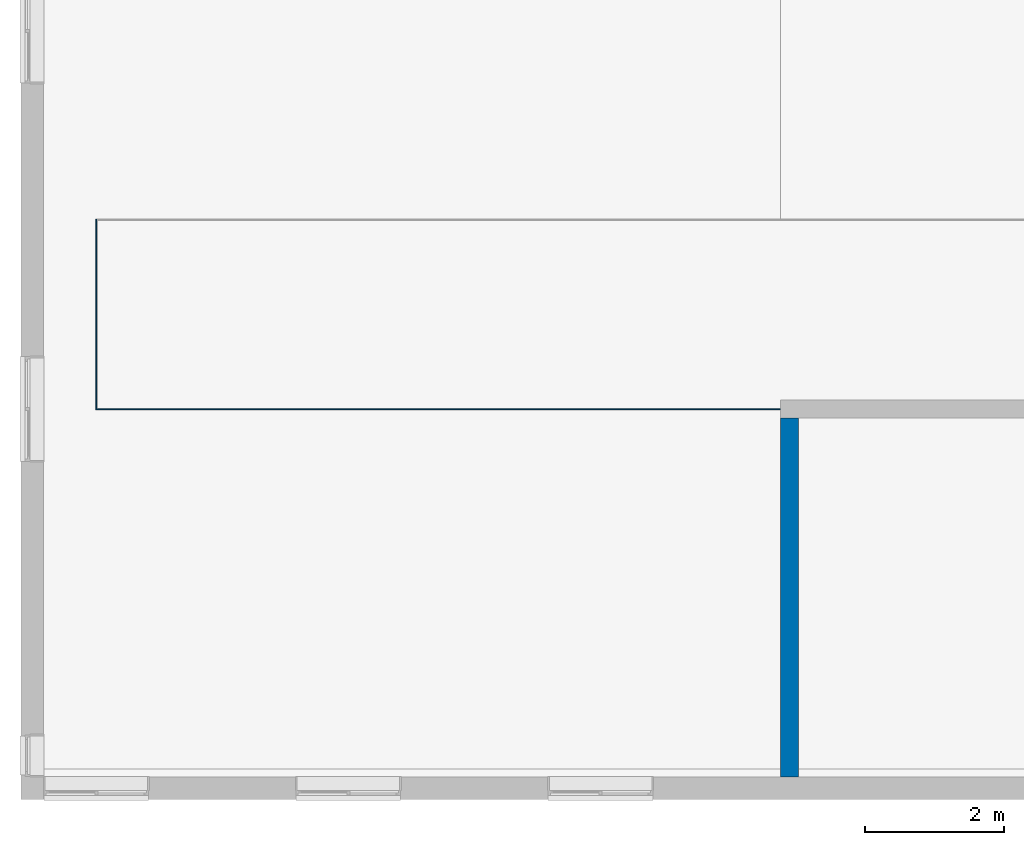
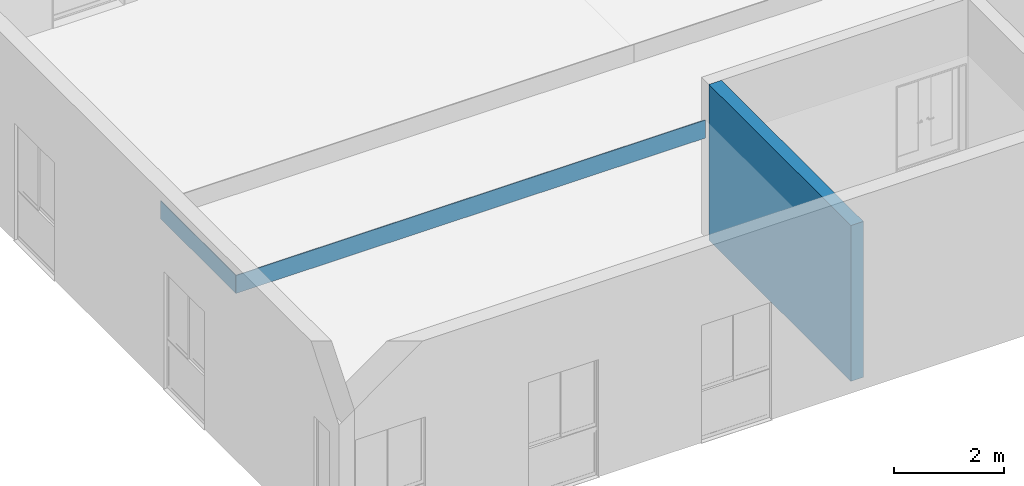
# One storey, part 1 of 11: 3 walls.
"""IFC4X3 building model written with IfcOpenShell, lengths in millimetres."""

from ifc_helpers import new_model, entity, si_unit, converted_unit, derived_unit, direction, frame, frame_2d, origin, place, context, subcontext, project, spatial, rectangle, extrude, material, layer, layer_set, type_object, element, save


model = new_model("IFC4X3")

# Units and contexts
model_context = context("Model", 3, precision=0.01, world=origin(), true_north=direction((6.12303176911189e-17, 1.0)))
body_context = subcontext(model_context, "Body", "Model", "MODEL_VIEW")
ifc_project = project(units=[si_unit("LENGTHUNIT", "METRE", prefix="MILLI"), si_unit("AREAUNIT", "SQUARE_METRE"), si_unit("VOLUMEUNIT", "CUBIC_METRE"), converted_unit("PLANEANGLEUNIT", "DEGREE", entity("IfcPlaneAngleMeasure", 0.0174532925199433), si_unit("PLANEANGLEUNIT", "RADIAN"), dimensions=[0, 0, 0, 0, 0, 0, 0]), si_unit("MASSUNIT", "GRAM", prefix="KILO"), derived_unit("MASSDENSITYUNIT", [(si_unit("MASSUNIT", "GRAM", prefix="KILO"), 1), (si_unit("LENGTHUNIT", "METRE"), -3)]), derived_unit("IONCONCENTRATIONUNIT", [(si_unit("MASSUNIT", "GRAM", prefix="KILO"), 1), (si_unit("LENGTHUNIT", "METRE"), -3)]), derived_unit("MOMENTOFINERTIAUNIT", [(si_unit("LENGTHUNIT", "METRE"), 4)]), si_unit("TIMEUNIT", "SECOND"), si_unit("FREQUENCYUNIT", "HERTZ"), si_unit("THERMODYNAMICTEMPERATUREUNIT", "DEGREE_CELSIUS"), derived_unit("THERMALTRANSMITTANCEUNIT", [(si_unit("MASSUNIT", "GRAM", prefix="KILO"), 1), (si_unit("THERMODYNAMICTEMPERATUREUNIT", "KELVIN"), -1), (si_unit("TIMEUNIT", "SECOND"), -3)]), derived_unit("THERMALCONDUCTANCEUNIT", [(si_unit("MASSUNIT", "GRAM", prefix="KILO"), 1), (si_unit("THERMODYNAMICTEMPERATUREUNIT", "KELVIN"), -1), (si_unit("TIMEUNIT", "SECOND"), -3), (si_unit("LENGTHUNIT", "METRE"), 1)]), derived_unit("VOLUMETRICFLOWRATEUNIT", [(si_unit("LENGTHUNIT", "METRE", prefix="DECI"), 3), (si_unit("TIMEUNIT", "SECOND"), -1)]), derived_unit("MASSFLOWRATEUNIT", [(si_unit("MASSUNIT", "GRAM", prefix="KILO"), 1), (si_unit("TIMEUNIT", "SECOND"), -1)]), derived_unit("ROTATIONALFREQUENCYUNIT", [(si_unit("TIMEUNIT", "SECOND"), -1)]), si_unit("ELECTRICCURRENTUNIT", "AMPERE"), si_unit("ELECTRICVOLTAGEUNIT", "VOLT"), si_unit("POWERUNIT", "WATT"), si_unit("FORCEUNIT", "NEWTON", prefix="KILO"), si_unit("ILLUMINANCEUNIT", "LUX"), si_unit("LUMINOUSFLUXUNIT", "LUMEN"), si_unit("LUMINOUSINTENSITYUNIT", "CANDELA"), si_unit("ENERGYUNIT", "JOULE"), derived_unit("USERDEFINED", [(si_unit("MASSUNIT", "GRAM", prefix="KILO"), -1), (si_unit("LENGTHUNIT", "METRE"), -2), (si_unit("TIMEUNIT", "SECOND"), 3), (si_unit("LUMINOUSFLUXUNIT", "LUMEN"), 1)]), derived_unit("USERDEFINED", [(si_unit("MASSUNIT", "GRAM", prefix="KILO"), 1), (si_unit("TIMEUNIT", "SECOND"), -3), (si_unit("LENGTHUNIT", "METRE"), 3), (si_unit("ELECTRICCURRENTUNIT", "AMPERE"), -2)]), derived_unit("SOUNDPOWERUNIT", [(si_unit("MASSUNIT", "GRAM", prefix="KILO"), 1), (si_unit("TIMEUNIT", "SECOND"), -3), (si_unit("LENGTHUNIT", "METRE"), 2)]), derived_unit("SOUNDPRESSUREUNIT", [(si_unit("MASSUNIT", "GRAM", prefix="KILO"), 1), (si_unit("LENGTHUNIT", "METRE"), -1), (si_unit("TIMEUNIT", "SECOND"), -2)]), derived_unit("LINEARVELOCITYUNIT", [(si_unit("LENGTHUNIT", "METRE"), 1), (si_unit("TIMEUNIT", "SECOND"), -1)]), si_unit("PRESSUREUNIT", "PASCAL"), derived_unit("USERDEFINED", [(si_unit("MASSUNIT", "GRAM", prefix="KILO"), 1), (si_unit("LENGTHUNIT", "METRE"), -2), (si_unit("TIMEUNIT", "SECOND"), -2)]), derived_unit("LINEARFORCEUNIT", [(si_unit("MASSUNIT", "GRAM", prefix="KILO"), 1), (si_unit("TIMEUNIT", "SECOND"), -2)]), derived_unit("PLANARFORCEUNIT", [(si_unit("MASSUNIT", "GRAM", prefix="KILO"), 1), (si_unit("LENGTHUNIT", "METRE"), -1), (si_unit("TIMEUNIT", "SECOND"), -2)]), derived_unit("SPECIFICHEATCAPACITYUNIT", [(si_unit("THERMODYNAMICTEMPERATUREUNIT", "KELVIN"), -1), (si_unit("LENGTHUNIT", "METRE"), 2), (si_unit("TIMEUNIT", "SECOND"), -2)]), derived_unit("HEATFLUXDENSITYUNIT", [(si_unit("MASSUNIT", "GRAM", prefix="KILO"), 1), (si_unit("TIMEUNIT", "SECOND"), -3)]), derived_unit("HEATINGVALUEUNIT", [(si_unit("LENGTHUNIT", "METRE"), 2), (si_unit("TIMEUNIT", "SECOND"), -2)]), derived_unit("VAPORPERMEABILITYUNIT", [(si_unit("LENGTHUNIT", "METRE"), -1), (si_unit("TIMEUNIT", "SECOND"), 1)]), derived_unit("DYNAMICVISCOSITYUNIT", [(si_unit("MASSUNIT", "GRAM", prefix="KILO"), 1), (si_unit("TIMEUNIT", "SECOND"), -1), (si_unit("LENGTHUNIT", "METRE"), -1)]), derived_unit("THERMALEXPANSIONCOEFFICIENTUNIT", [(si_unit("THERMODYNAMICTEMPERATUREUNIT", "KELVIN"), -1)]), derived_unit("MODULUSOFELASTICITYUNIT", [(si_unit("MASSUNIT", "GRAM", prefix="KILO"), 1), (si_unit("LENGTHUNIT", "METRE"), -1), (si_unit("TIMEUNIT", "SECOND"), -2)]), derived_unit("ISOTHERMALMOISTURECAPACITYUNIT", [(si_unit("MASSUNIT", "GRAM", prefix="KILO"), -1), (si_unit("LENGTHUNIT", "METRE"), 3)]), derived_unit("MOISTUREDIFFUSIVITYUNIT", [(si_unit("TIMEUNIT", "SECOND"), -1), (si_unit("LENGTHUNIT", "METRE"), 2)]), derived_unit("AREADENSITYUNIT", [(si_unit("MASSUNIT", "GRAM", prefix="KILO"), 1), (si_unit("LENGTHUNIT", "METRE"), 2)]), derived_unit("MASSPERLENGTHUNIT", [(si_unit("MASSUNIT", "GRAM", prefix="KILO"), 1), (si_unit("LENGTHUNIT", "METRE"), -1)]), derived_unit("THERMALRESISTANCEUNIT", [(si_unit("MASSUNIT", "GRAM", prefix="KILO"), -1), (si_unit("TIMEUNIT", "SECOND"), 3), (si_unit("THERMODYNAMICTEMPERATUREUNIT", "KELVIN"), 1)]), derived_unit("ACCELERATIONUNIT", [(si_unit("LENGTHUNIT", "METRE"), 1), (si_unit("TIMEUNIT", "SECOND"), -2)]), derived_unit("ANGULARVELOCITYUNIT", [(si_unit("TIMEUNIT", "SECOND"), -1), (si_unit("PLANEANGLEUNIT", "RADIAN"), 1)]), derived_unit("LINEARSTIFFNESSUNIT", [(si_unit("MASSUNIT", "GRAM", prefix="KILO"), 1), (si_unit("TIMEUNIT", "SECOND"), -2)]), derived_unit("WARPINGCONSTANTUNIT", [(si_unit("LENGTHUNIT", "METRE"), 6)]), derived_unit("LINEARMOMENTUNIT", [(si_unit("MASSUNIT", "GRAM", prefix="KILO"), 1), (si_unit("LENGTHUNIT", "METRE"), 1), (si_unit("TIMEUNIT", "SECOND"), -2)]), derived_unit("TORQUEUNIT", [(si_unit("MASSUNIT", "GRAM", prefix="KILO"), 1), (si_unit("LENGTHUNIT", "METRE"), 2), (si_unit("TIMEUNIT", "SECOND"), -2)])], contexts=[model_context])

# Site, building, storey
site_placement = place(None, origin())
site = spatial("IfcSite", under=ifc_project, at=site_placement, Name="Default", CompositionType="ELEMENT")
building_placement = place(site_placement, origin())
building = spatial("IfcBuilding", under=site, at=building_placement, Name="事務所ビル", CompositionType="ELEMENT")
storey_placement = place(building_placement, frame((0.0, 0.0, 8000.0)))
storey = spatial("IfcBuildingStorey", under=building, at=storey_placement, Name="3FL", CompositionType="ELEMENT", Elevation=8000.0)

# Walls
ifc_material_1 = material(Name="せっこうボード", Category="一般")
ifc_layer_1 = layer(ifc_material_1, 15.0, Name="せっこうボード", Category="一般")
ifc_material_2 = material(Name="合板", Category="一般")
ifc_layer_2 = layer(ifc_material_2, 12.0, Name="合板", Category="一般")
ifc_material_3 = material(Name="天然木材", Category="一般")
ifc_layer_3 = layer(ifc_material_3, 210.0, Name="天然木材", Category="一般")
ifc_layer_4 = layer(ifc_material_2, 12.0, Name="合板", Category="一般")
ifc_layer_5 = layer(ifc_material_1, 15.0, Name="せっこうボード", Category="一般")
ifc_layer_set_1 = layer_set([ifc_layer_1, ifc_layer_2, ifc_layer_3, ifc_layer_4, ifc_layer_5], Name="標準壁:GB-R15_構造用合板12_木210_構造用合板12_GB-R15")
wall_type_1 = type_object("IfcWallType", Name="標準壁:GB-R15_構造用合板12_木210_構造用合板12_GB-R15", PredefinedType="STANDARD", material=ifc_layer_set_1)
wall_1_placement = place(storey_placement, frame((10920.0, 147.0, 0.0), z_axis=(0.0, 0.0, 1.0), x_axis=(0.0, 1.0, 0.0)))
element("IfcWall", 1, at=wall_1_placement, inside=storey, type_object=wall_type_1, material=ifc_layer_set_1, Name="標準壁:GB-R15_構造用合板12_木210_構造用合板12_GB-R15", ObjectType="標準壁:GB-R15_構造用合板12_木210_構造用合板12_GB-R15", PredefinedType="NOTDEFINED", context=body_context, shape_type="SweptSolid", body=[
    extrude(rectangle(XDim=5181.00000000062, YDim=264.000000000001, at=frame_2d((2590.50000000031, -4.83169060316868e-13), x_axis=(-1.0, 0.0))), origin(), (0.0, 0.0, 1.0), 3470.0),
])
ifc_material_4 = material(Name="<Unnamed>")
ifc_layer_6 = layer(ifc_material_4, 15.0, Name="Layer")
ifc_layer_set_2 = layer_set([ifc_layer_6], Name="標準壁:GB-R15")
wall_type_2 = type_object("IfcWallType", Name="標準壁:GB-R15", PredefinedType="STANDARD", material=ifc_layer_set_2)
wall_2_placement = place(storey_placement, frame((10788.0, 5460.0, 2200.0), z_axis=(0.0, 0.0, 1.0), x_axis=(-1.0, 0.0, 0.0)))
element("IfcWall", 2, at=wall_2_placement, inside=storey, type_object=wall_type_2, material=ifc_layer_set_2, Name="標準壁:GB-R15", ObjectType="標準壁:GB-R15", PredefinedType="NOTDEFINED", context=body_context, shape_type="SweptSolid", body=[
    extrude(rectangle(XDim=9885.49999999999, YDim=15.0000000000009, at=frame_2d((4942.75, 1.19904086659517e-14), x_axis=(-1.0, 0.0))), origin(), (0.0, 0.0, 1.0), 399.999999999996),
])
wall_3_placement = place(storey_placement, frame((910.0, 5467.4999999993, 2200.0), z_axis=(0.0, 0.0, 1.0), x_axis=(0.0, 1.0, 0.0)))
element("IfcWall", 3, at=wall_3_placement, inside=storey, type_object=wall_type_2, material=ifc_layer_set_2, Name="標準壁:GB-R15", ObjectType="標準壁:GB-R15", PredefinedType="NOTDEFINED", context=body_context, shape_type="SweptSolid", body=[
    extrude(rectangle(XDim=2729.99999999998, YDim=15.0000000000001, at=frame_2d((1364.99999999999, 0.0), x_axis=(-1.0, 0.0))), origin(), (0.0, 0.0, 1.0), 399.999999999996),
])

save(model, "model.ifc")
